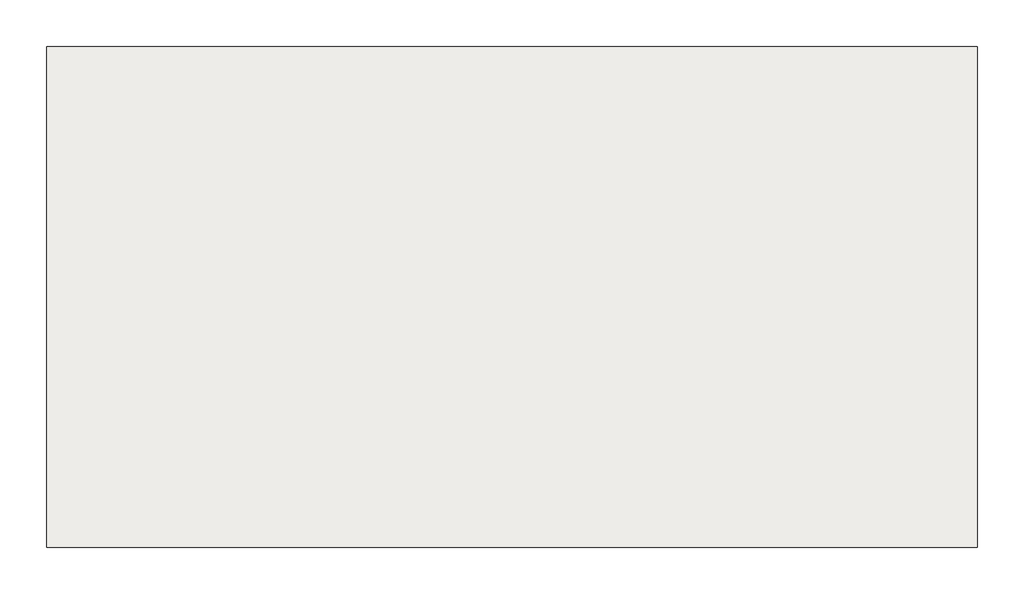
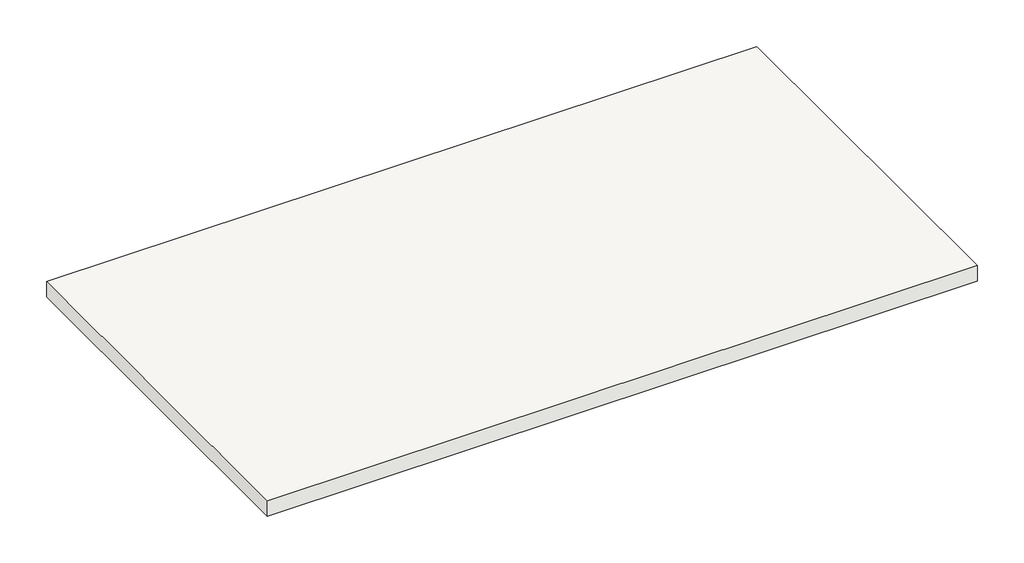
# One storey: 1 slab.
"""IFC4 building model written with IfcOpenShell, lengths in millimetres."""

from ifc_helpers import new_model, si_unit, frame, origin, place, context, project, spatial, polyline, outline, extrude, element, save

model = new_model("IFC4")

# Units and contexts
model_context = context("Model", 3, world=origin())
ifc_project = project(units=[si_unit("LENGTHUNIT", "METRE", prefix="MILLI")], contexts=[model_context])

# Site, building, storey
site = spatial("IfcSite", under=ifc_project)
building = spatial("IfcBuilding", under=site)
storey = spatial("IfcBuildingStorey", under=building, Name="标高 3", Elevation=5700.0)

# Slab
placement = place(None, origin())
element("IfcSlab", 1, ObjectType="常规 - 150mm", at=placement, inside=storey, context=model_context, shape_type="SweptSolid", body=[
    extrude(outline(polyline([(7692.3784101, 757.8406531), (7692.3784101, -2742.1593469), (1192.3784101, -2742.1593469), (1192.3784101, 757.8406531), (7692.3784101, 757.8406531)])), frame((0.0, 0.0, 5550.0), z_axis=(0.0, 0.0, 1.0), x_axis=(1.0, 0.0, 0.0)), (0.0, 0.0, 1.0), 150.0),
])

save(model, "model.ifc")
